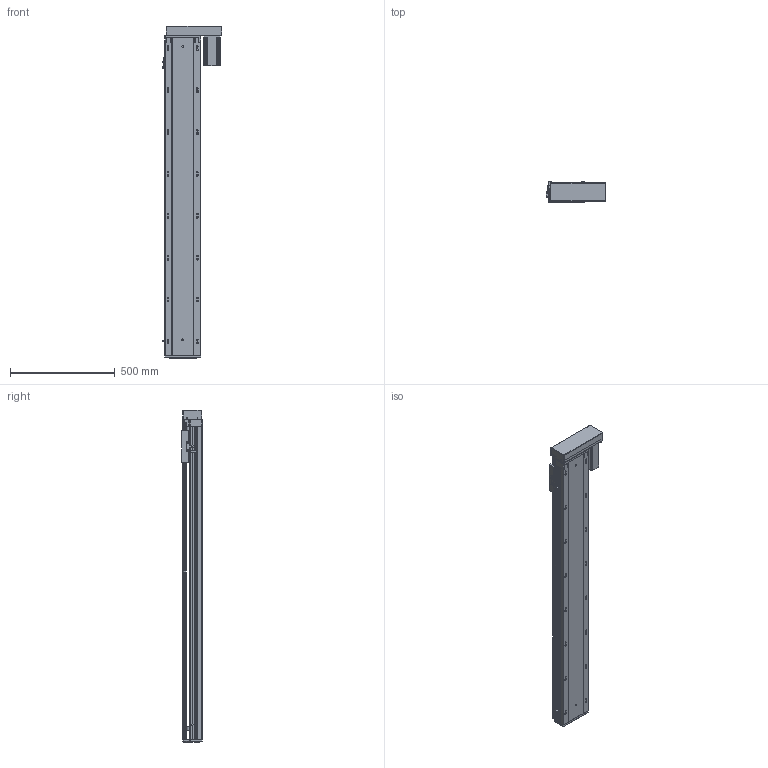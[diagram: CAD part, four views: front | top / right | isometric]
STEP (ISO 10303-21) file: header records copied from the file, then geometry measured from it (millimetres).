
FILE_DESCRIPTION (( 'STEP AP203' ), '1' );
FILE_NAME ('RY170-L2510-1400-RK.SLDASM_1250.step', '2021-03-12T09:38:07', ( '盈信电脑' ), ( '东莞市道滘镇水果街19号' ), 'SwSTEP 2.0', 'SolidWorks 2012', '' );
FILE_SCHEMA (( 'CONFIG_CONTROL_DESIGN' ));
Length unit declared in the file: millimetre
Products named in the file (13): 覜茼ん672; RY170外置感应片(200共用）; RY170-L2510-1400-RK.SLDASM_1250; 怢湛750W萇儂ㄗ80遺ㄘ; RY170-酘衵殏750W萇儂傷; RY170酘衵殏萇儂欶750W; 滅袉蝶18-20; RY170-左右折电机安装板750W; RY170转折电机端支撑座(7004); RY170綴裔啣; 改造-RY170铝滑块25丝杆螺母; RY170-1400倰第菁釱-LK_1250; RY170-1400倰第裔啣-LK_1250
Assembly tree (15 placements, depth 3):
  RY170-L2510-1400-RK.SLDASM_1250
    RY170-1400倰第菁釱-LK_1250
    改造-RY170铝滑块25丝杆螺母
    RY170-1400倰第裔啣-LK_1250
    RY170綴裔啣
    滅袉蝶18-20  x2
    RY170转折电机端支撑座(7004)
    RY170-酘衵殏750W萇儂傷
      RY170-左右折电机安装板750W
      RY170酘衵殏萇儂欶750W
      怢湛750W萇儂ㄗ80遺ㄘ
    覜茼ん672  x3
    RY170外置感应片(200共用）
Bounding box: 286.2 x 97 x 1585 mm (x, y, z)
Volume: 8384282.3 mm3; surface area: 2666572.8 mm2
Topology: 14 solids, 14 shells, 2261 faces, 6478 edges, 4142 vertices
Faces by surface type: plane 1090, cylinder 946, cone 206, bspline 19
Entity records: 72818 total; most frequent: CARTESIAN_POINT 17539, ORIENTED_EDGE 11600, DIRECTION 10768, EDGE_CURVE 5800, VERTEX_POINT 3810, AXIS2_PLACEMENT_3D 3609, VECTOR 3550, LINE 3550
